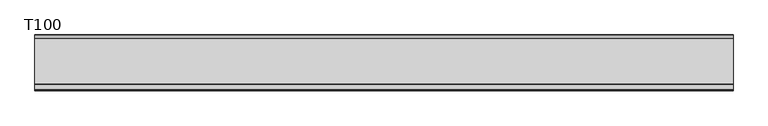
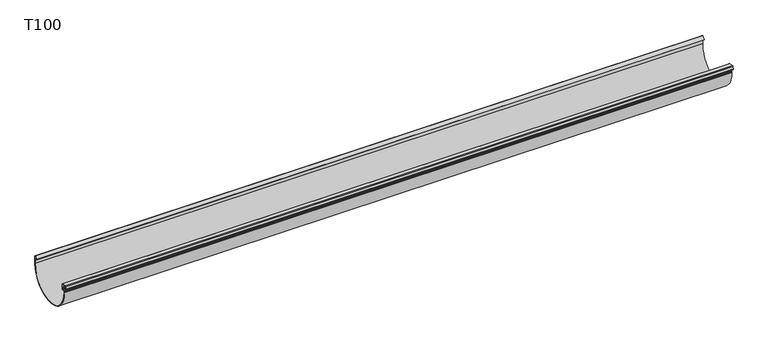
"""IFC4 building model written with IfcOpenShell, lengths in millimetres: proxy geometry, GROVIK_Gutter_Straight : T100."""

from ifc_helpers import new_model, si_unit, point, frame, frame_2d, origin, place, context, project, spatial, polyline, circle_curve, trimmed, segment, composite_curve, outline, extrude, source, transform, mapped, element, save


def t100_74cc6afe(model_context):
    return source(origin(), model_context, "Body", "SweptSolid", [
        extrude(outline(composite_curve([segment(polyline([(95.6785725, -12.9222473), (100.8871557, -13.3779393)]), True, "CONTINUOUS"), segment(trimmed(circle_curve(frame_2d((100.8, -14.374134)), 1.0), [point((100.8871557, -13.3779393))], [point((101.8, -14.374134))], False, "CARTESIAN"), True, "CONTINUOUS"), segment(polyline([(101.8, -14.374134), (101.8, -16.3578028)]), True, "CONTINUOUS"), segment(trimmed(circle_curve(frame_2d((50.9, -16.3578028)), 50.9), [point((101.8, -16.3578028))], [point((0.0, -16.3578028))], False, "CARTESIAN"), True, "CONTINUOUS"), segment(polyline([(0.0, -16.3578028), (0.0, -0.5000001)]), True, "CONTINUOUS"), segment(trimmed(circle_curve(frame_2d((0.5, -0.5000001)), 0.5), [point((0.0, -0.5000001))], [point((0.8213938, -0.1169779))], False, "CARTESIAN"), True, "CONTINUOUS"), segment(polyline([(0.8213938, -0.1169779), (6.2279844, -4.653646), (5.6494755, -5.343086), (0.9, -1.3578028), (0.9, -16.3578028)]), True, "CONTINUOUS"), segment(trimmed(circle_curve(frame_2d((50.9, -16.3578028)), 50.0), [point((0.9, -16.3578028))], [point((100.9, -16.3578028))], True, "CARTESIAN"), True, "CONTINUOUS"), segment(polyline([(100.9, -16.3578028), (100.9, -14.2825008), (95.683723, -13.8261357)]), True, "CONTINUOUS"), segment(trimmed(circle_curve(frame_2d((95.683723, -12.9170968)), 0.909039), [point((95.683723, -13.8261357))], [point((94.7746841, -12.9170968))], False, "CARTESIAN"), True, "CONTINUOUS"), segment(polyline([(94.7746841, -12.9170968), (93.9345391, -3.3141956)]), True, "CONTINUOUS"), segment(trimmed(circle_curve(frame_2d((94.9307338, -3.2270398)), 1.0), [point((93.9345391, -3.3141956))], [point((94.7570856, -2.242232))], False, "CARTESIAN"), True, "CONTINUOUS"), segment(polyline([(94.7570856, -2.242232), (104.6051631, -0.5057503)]), True, "CONTINUOUS"), segment(trimmed(circle_curve(frame_2d((104.6923189, -1.501945)), 1.0), [point((104.6051631, -0.5057503))], [point((105.6885136, -1.4147892))], False, "CARTESIAN"), True, "CONTINUOUS"), segment(polyline([(105.6885136, -1.4147892), (106.1850202, -7.0898858)]), True, "CONTINUOUS"), segment(trimmed(circle_curve(frame_2d((105.1888255, -7.1770416)), 1.0), [point((106.1850202, -7.0898858))], [point((105.0151773, -8.1618494))], False, "CARTESIAN"), True, "CONTINUOUS"), segment(polyline([(105.0151773, -8.1618494), (98.1850202, -6.9575084), (98.3413035, -6.0711814), (105.2998033, -7.2981526), (104.7816977, -1.3761788), (94.8220658, -3.1323306), (95.6785725, -12.9222473)]), True, "CONTINUOUS")], self_intersect=False)), frame((1522.5101332, 0.0, -1.3287101), z_axis=(-0.999999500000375, 0.0, 0.000999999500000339), x_axis=(0.0, -1.0, 0.0)), (0.0, 0.0, 1.0), 1328.7107975),
    ])


if __name__ == "__main__":
    model = new_model("IFC4")
    model_context = context("Model", 3, world=origin())
    ifc_project = project(units=[si_unit("LENGTHUNIT", "METRE", prefix="MILLI")], contexts=[model_context])
    site = spatial("IfcSite", under=ifc_project)
    building = spatial("IfcBuilding", under=site)
    placement = place(None, origin())
    t100_shape = t100_74cc6afe(model_context)
    element("IfcBuildingElementProxy", 1, Name="GROVIK_Gutter_Straight : T100", ObjectType="GROVIK_Gutter_Straight : T100", at=placement, inside=building, context=model_context, shape_type="MappedRepresentation", body=[
        mapped(t100_shape, transform((0.0, 0.0, 0.0), x_axis=(1.0, 0.0, 0.0), y_axis=(0.0, 1.0, 0.0), z_axis=(0.0, 0.0, 1.0))),
    ])
    save(model, "model.ifc")
